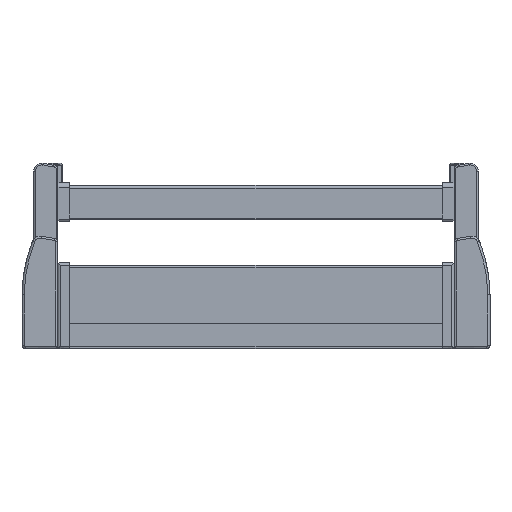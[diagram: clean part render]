
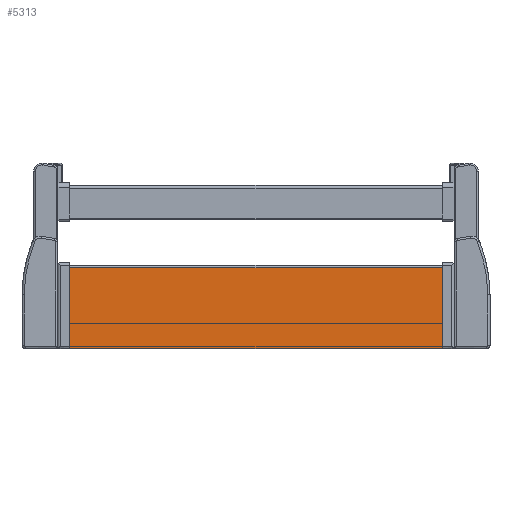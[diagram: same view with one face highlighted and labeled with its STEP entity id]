
A CAD part, top view. The second image highlights one B-rep face of the part: STEP entity #5313.
In plain terms, the highlighted planar face has unit normal (0, 0, 1).
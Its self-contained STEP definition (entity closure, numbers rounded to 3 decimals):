
#1741 = CARTESIAN_POINT ( 'NONE',  ( 160.8, -23., 1.4 ) ) ;
#1759 = CARTESIAN_POINT ( 'NONE',  ( 160.8, -92.5, 1.4 ) ) ;
#1956 = DIRECTION ( 'NONE',  ( 0., 1., 0. ) ) ;
#1957 = VECTOR ( 'NONE', #1956, 1000. ) ;
#1958 = CARTESIAN_POINT ( 'NONE',  ( 160.8, -92.5, 1.4 ) ) ;
#1959 = LINE ( 'NONE', #1958, #1957 ) ;
#2018 = LINE ( 'NONE', #2022, #2079 ) ;
#2019 = DIRECTION ( 'NONE',  ( 0., 1., 0. ) ) ;
#2020 = DIRECTION ( 'NONE',  ( 0., 0., -1. ) ) ;
#2021 = CARTESIAN_POINT ( 'NONE',  ( 234.556, -92.5, 1.4 ) ) ;
#2022 = CARTESIAN_POINT ( 'NONE',  ( 234.556, -23., 1.4 ) ) ;
#2023 = AXIS2_PLACEMENT_3D ( 'NONE', #2021, #2020, #2019 ) ;
#2024 = PLANE ( 'NONE',  #2023 ) ;
#2025 = FACE_OUTER_BOUND ( 'NONE', #5312, .T. ) ;
#2031 = CARTESIAN_POINT ( 'NONE',  ( -160.8, -92.5, 1.4 ) ) ;
#2032 = DIRECTION ( 'NONE',  ( -1., 0., 0. ) ) ;
#2033 = VECTOR ( 'NONE', #2032, 1000. ) ;
#2034 = CARTESIAN_POINT ( 'NONE',  ( 234.556, -92.5, 1.4 ) ) ;
#2035 = LINE ( 'NONE', #2034, #2033 ) ;
#2073 = DIRECTION ( 'NONE',  ( 0., 1., 0. ) ) ;
#2074 = VECTOR ( 'NONE', #2073, 1000. ) ;
#2075 = CARTESIAN_POINT ( 'NONE',  ( -160.8, -92.5, 1.4 ) ) ;
#2076 = LINE ( 'NONE', #2075, #2074 ) ;
#2077 = CARTESIAN_POINT ( 'NONE',  ( -160.8, -23., 1.4 ) ) ;
#2078 = DIRECTION ( 'NONE',  ( -1., 0., 0. ) ) ;
#2079 = VECTOR ( 'NONE', #2078, 1000. ) ;
#5142 = VERTEX_POINT ( 'NONE', #1741 ) ;
#5151 = VERTEX_POINT ( 'NONE', #1759 ) ;
#5274 = EDGE_CURVE ( 'NONE', #5151, #5142, #1959, .T. ) ;
#5308 = EDGE_CURVE ( 'NONE', #5151, #5309, #2035, .T. ) ;
#5309 = VERTEX_POINT ( 'NONE', #2031 ) ;
#5312 = EDGE_LOOP ( 'NONE', ( #5314, #5315, #5316, #5321 ) ) ;
#5313 = ADVANCED_FACE ( 'NONE', ( #2025 ), #2024, .F. ) ;
#5314 = ORIENTED_EDGE ( 'NONE', *, *, #5308, .F. ) ;
#5315 = ORIENTED_EDGE ( 'NONE', *, *, #5274, .T. ) ;
#5316 = ORIENTED_EDGE ( 'NONE', *, *, #5317, .T. ) ;
#5317 = EDGE_CURVE ( 'NONE', #5142, #5319, #2018, .T. ) ;
#5319 = VERTEX_POINT ( 'NONE', #2077 ) ;
#5321 = ORIENTED_EDGE ( 'NONE', *, *, #5322, .F. ) ;
#5322 = EDGE_CURVE ( 'NONE', #5309, #5319, #2076, .T. ) ;
